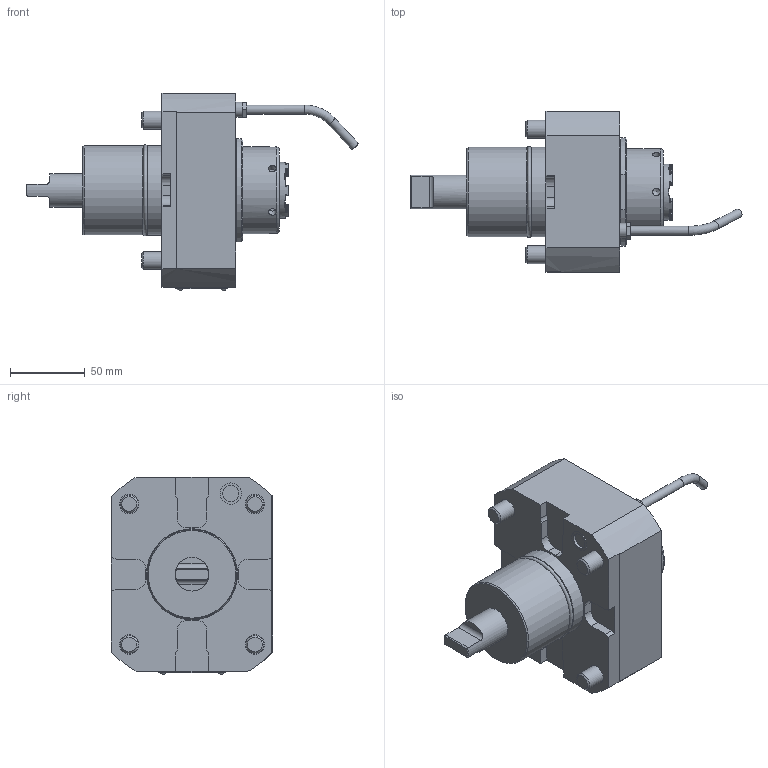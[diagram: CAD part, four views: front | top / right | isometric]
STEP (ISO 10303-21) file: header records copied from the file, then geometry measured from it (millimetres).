
FILE_DESCRIPTION(/* description */ (''),/* implementation_level */ '2;1');
FILE_NAME(/* name */ '177632',/* time_stamp */ '2023-04-21T07:05:52+02:00',/* author */ (''),/* organization */ (''),/* preprocessor_version */ 'ST-DEVELOPER v16.5',/* originating_system */ 'HiCAD 2017 2201.0 Build 268',/* authorisation */ '');
FILE_SCHEMA (('AUTOMOTIVE_DESIGN { 1 0 10303 214 1 1 1 1 }'));
Length unit declared in the file: millimetre
Products named in the file (8): Root; Teil; QRSTUVWXYZ[\]^_`ABCDEFGHIJKLMNOPQRSTUVWXYZ{|}~\X2\20AC0081201A0191
201E20262020202102C6000D\X0\; GEWINDE; DIN 13-M40x1,5
Assembly tree (7 placements, depth 3):
  Root
    Teil
      QRSTUVWXYZ[\]^_`ABCDEFGHIJKLMNOPQRSTUVWXYZ{|}~\X2\20AC0081201A0191
201E20262020202102C6000D\X0\
      GEWINDE
      GEWINDE
      GEWINDE
      GEWINDE
      DIN 13-M40x1,5
Bounding box: 222.17 x 108 x 132.3 mm (x, y, z)
Volume: 871918.3 mm3; surface area: 123822.5 mm2
Topology: 9 solids, 13 shells, 458 faces, 1172 edges, 766 vertices
Faces by surface type: plane 245, cylinder 156, cone 31, torus 22, sphere 4
Full cylindrical faces by diameter (mm): 2 x4, 2.2 x4, 4 x2, 5.1 x6, 6 x2, 9.853 x8, 10 x1, 10.82 x1, 12 x8, 13 x4, 14.18 x1, 18 x4, 20 x4, 22.5 x1, 24 x1, 24.315 x1, 27 x2, 29.4 x1, 37.5 x1, 38 x1, 38.16 x2, 38.5 x1, 40 x3, 40.5 x1, 55 x1, 55.8 x1, 58 x1, 59.8 x1, 59.9 x1, 67 x1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
Entity records: 27674 total; most frequent: CARTESIAN_POINT 7228, DIRECTION 2180, PRESENTATION_STYLE_ASSIGNMENT 2014, OVER_RIDING_STYLED_ITEM 2007, COLOUR_RGB 2005, DRAUGHTING_PRE_DEFINED_CURVE_FONT 2002, CURVE_STYLE 2002, ORIENTED_EDGE 2002
